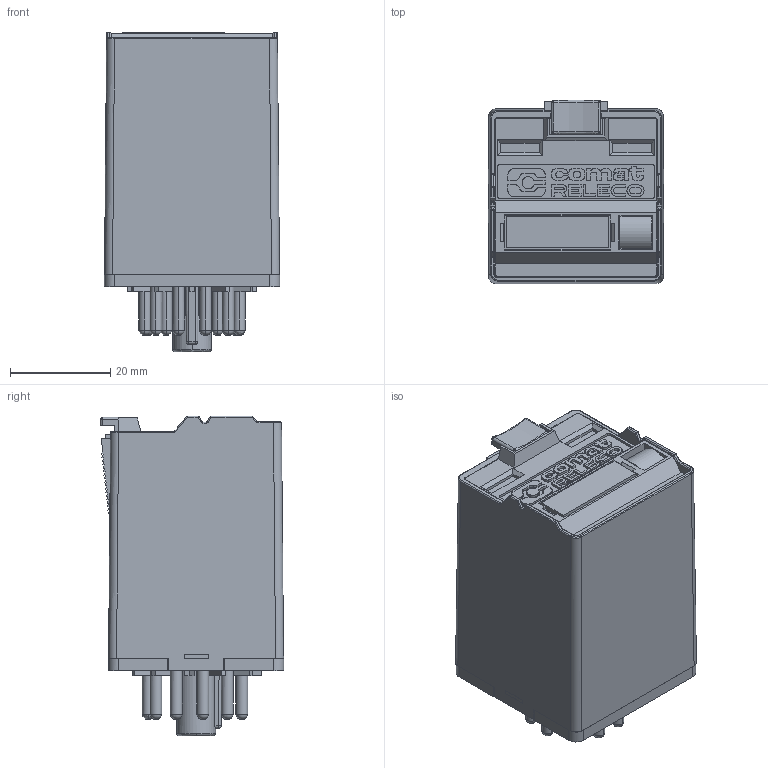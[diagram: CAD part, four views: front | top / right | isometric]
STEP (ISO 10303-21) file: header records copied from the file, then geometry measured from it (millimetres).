
FILE_DESCRIPTION (( 'STEP AP214' ), '1' );
FILE_NAME ('R3.STEP', '2024-03-26T09:08:26', ( '' ), ( '' ), 'SwSTEP 2.0', 'SolidWorks 2022', '' );
FILE_SCHEMA (( 'AUTOMOTIVE_DESIGN' ));
Length unit declared in the file: millimetre
Products named in the file (1): R3
Bounding box: 35 x 36.62 x 63.85 mm (x, y, z)
Volume: 57616.7 mm3; surface area: 13339 mm2
Topology: 1 solids, 1 shells, 813 faces, 2251 edges, 1451 vertices
Faces by surface type: plane 528, cylinder 134, bspline 133, torus 18
Entity records: 38253 total; most frequent: CARTESIAN_POINT 9738, ORIENTED_EDGE 4456, DIRECTION 3413, EDGE_CURVE 2228, VECTOR 1623, LINE 1623, VERTEX_POINT 1451, AXIS2_PLACEMENT_3D 895
